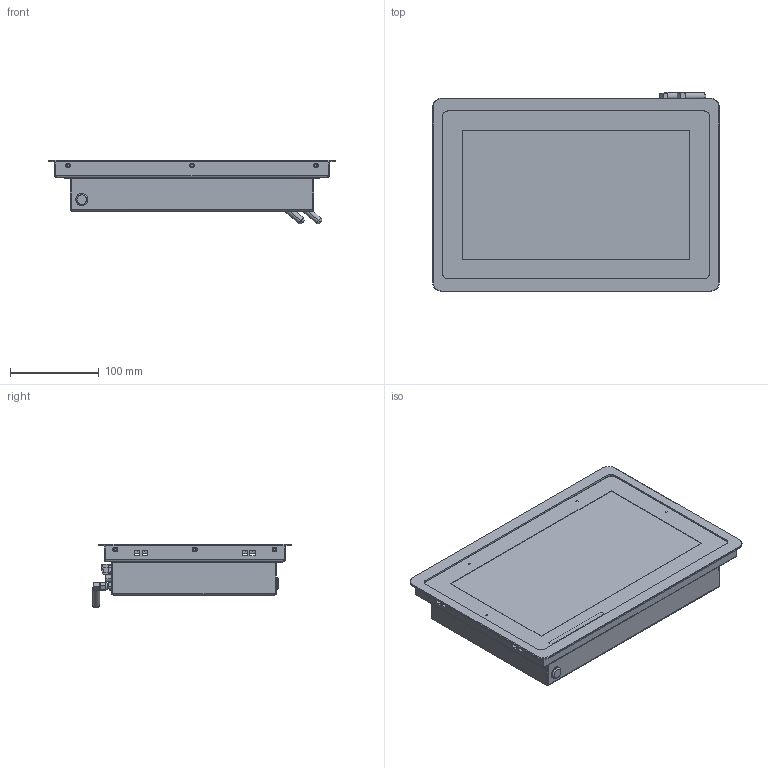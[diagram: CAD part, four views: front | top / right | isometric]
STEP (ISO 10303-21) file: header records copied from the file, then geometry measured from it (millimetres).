
FILE_DESCRIPTION((''),'2;1');
FILE_NAME('ASM-116_ASM','2022-06-17T',('Administrator'),(''),'CREO PARAMETRIC BY PTC INC, 2016260','CREO PARAMETRIC BY PTC INC, 2016260','');
FILE_SCHEMA(('CONFIG_CONTROL_DESIGN'));
Products named in the file (1): ASM-116_ASM
Bounding box: 323.7 x 224.9 x 71.92 mm (x, y, z)
Volume: 572585.3 mm3; surface area: 650597.9 mm2
Topology: 1 solids, 3 shells, 2326 faces, 6307 edges, 4128 vertices
Faces by surface type: plane 1461, cylinder 763, cone 66, bspline 28, torus 6, sphere 2
Entity records: 74953 total; most frequent: CARTESIAN_POINT 14379, ORIENTED_EDGE 12600, DIRECTION 12361, EDGE_CURVE 6305, VECTOR 4519, LINE 4519, VERTEX_POINT 4128, AXIS2_PLACEMENT_3D 3921
